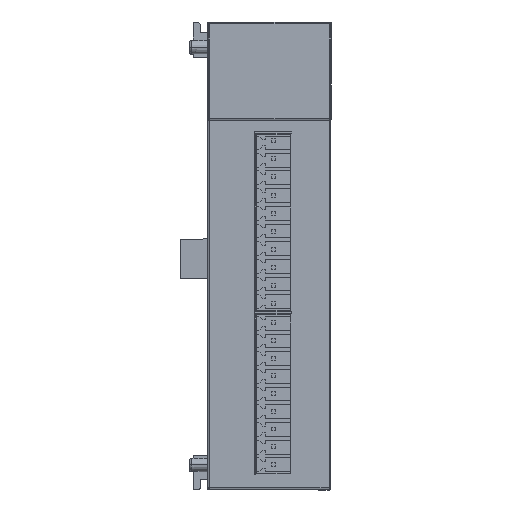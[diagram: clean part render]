
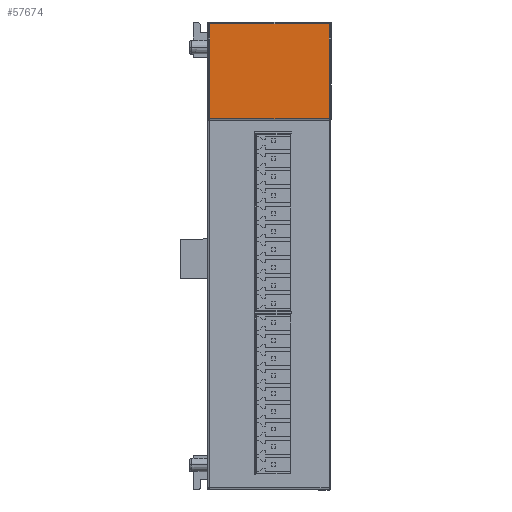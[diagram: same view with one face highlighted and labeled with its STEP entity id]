
A CAD part, top view. The second image highlights one B-rep face of the part: STEP entity #57674.
In plain terms, the highlighted planar face has unit normal (0, 0, 1).
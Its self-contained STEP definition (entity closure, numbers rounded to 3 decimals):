
#330 = VERTEX_POINT ( 'NONE', #42897 ) ;
#1541 = VERTEX_POINT ( 'NONE', #12972 ) ;
#2843 = LINE ( 'NONE', #47295, #48915 ) ;
#3939 = LINE ( 'NONE', #42850, #25018 ) ;
#4340 = CARTESIAN_POINT ( 'NONE',  ( 21.733, 37.745, 25.025 ) ) ;
#5886 = ORIENTED_EDGE ( 'NONE', *, *, #53258, .T. ) ;
#6415 = DIRECTION ( 'NONE',  ( 0., -1., 0. ) ) ;
#12972 = CARTESIAN_POINT ( 'NONE',  ( 46.09, 18.413, 25.025 ) ) ;
#13676 = DIRECTION ( 'NONE',  ( 0., 1., 0. ) ) ;
#14686 = VECTOR ( 'NONE', #28379, 1000. ) ;
#15060 = EDGE_LOOP ( 'NONE', ( #26343, #5886, #44757, #21102 ) ) ;
#16157 = VECTOR ( 'NONE', #64028, 1000. ) ;
#20192 = LINE ( 'NONE', #45189, #16157 ) ;
#21045 = AXIS2_PLACEMENT_3D ( 'NONE', #51552, #56736, #6415 ) ;
#21102 = ORIENTED_EDGE ( 'NONE', *, *, #45406, .T. ) ;
#22619 = FACE_OUTER_BOUND ( 'NONE', #15060, .T. ) ;
#24311 = EDGE_CURVE ( 'NONE', #56061, #1541, #20192, .T. ) ;
#25018 = VECTOR ( 'NONE', #13676, 1000. ) ;
#26343 = ORIENTED_EDGE ( 'NONE', *, *, #54009, .T. ) ;
#26802 = DIRECTION ( 'NONE',  ( -1., 0., 0. ) ) ;
#28379 = DIRECTION ( 'NONE',  ( 0., -1., 0. ) ) ;
#28690 = LINE ( 'NONE', #48539, #14686 ) ;
#42850 = CARTESIAN_POINT ( 'NONE',  ( 46.09, 28.079, 25.025 ) ) ;
#42897 = CARTESIAN_POINT ( 'NONE',  ( 46.09, 37.745, 25.025 ) ) ;
#44757 = ORIENTED_EDGE ( 'NONE', *, *, #24311, .T. ) ;
#45023 = VERTEX_POINT ( 'NONE', #4340 ) ;
#45189 = CARTESIAN_POINT ( 'NONE',  ( 33.911, 18.413, 25.025 ) ) ;
#45406 = EDGE_CURVE ( 'NONE', #1541, #330, #3939, .T. ) ;
#45454 = CARTESIAN_POINT ( 'NONE',  ( 21.733, 18.413, 25.025 ) ) ;
#47295 = CARTESIAN_POINT ( 'NONE',  ( 33.911, 37.745, 25.025 ) ) ;
#48539 = CARTESIAN_POINT ( 'NONE',  ( 21.733, 28.079, 25.025 ) ) ;
#48915 = VECTOR ( 'NONE', #26802, 1000. ) ;
#51552 = CARTESIAN_POINT ( 'NONE',  ( 33.911, 28.079, 25.025 ) ) ;
#53258 = EDGE_CURVE ( 'NONE', #45023, #56061, #28690, .T. ) ;
#54009 = EDGE_CURVE ( 'NONE', #330, #45023, #2843, .T. ) ;
#56061 = VERTEX_POINT ( 'NONE', #45454 ) ;
#56736 = DIRECTION ( 'NONE',  ( 0., 0., -1. ) ) ;
#57674 = ADVANCED_FACE ( 'NONE', ( #22619 ), #61585, .F. ) ;
#61585 = PLANE ( 'NONE',  #21045 ) ;
#64028 = DIRECTION ( 'NONE',  ( 1., 0., 0. ) ) ;
